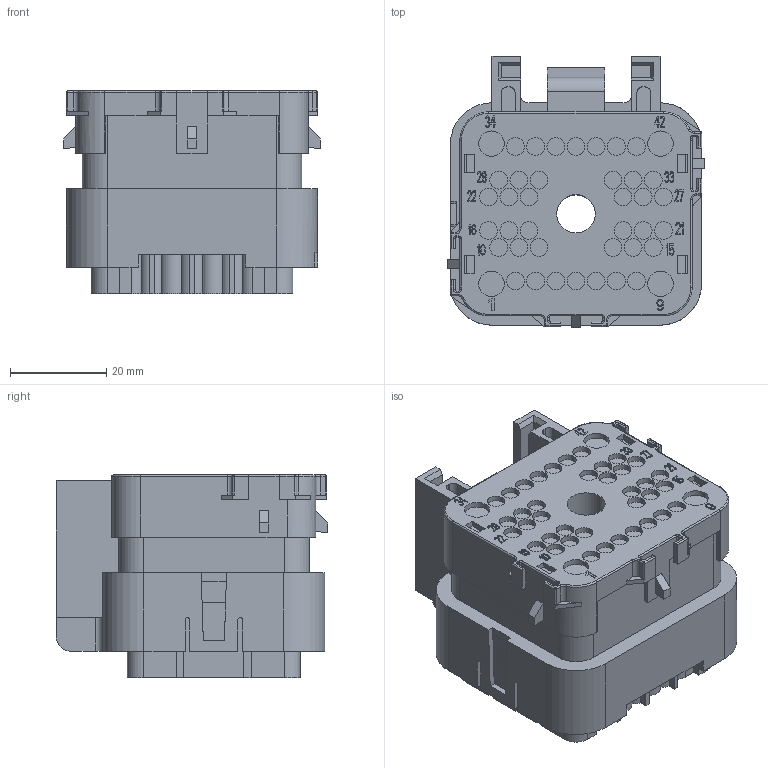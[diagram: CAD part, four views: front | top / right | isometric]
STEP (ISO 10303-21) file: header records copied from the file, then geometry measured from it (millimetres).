
FILE_DESCRIPTION((''),'2;1');
FILE_NAME('UP16_28-42S','2007-09-07T',('workeradm'),('Tyco Electronics Corporation'),'PRO/ENGINEER BY PARAMETRIC TECHNOLOGY CORPORATION, 2005450','PRO/ENGINEER BY PARAMETRIC TECHNOLOGY CORPORATION, 2005450','');
FILE_SCHEMA(('CONFIG_CONTROL_DESIGN', 'GEOMETRIC_VALIDATION_PROPERTIES_MIM'));
Length unit declared in the file: millimetre
Products named in the file (1): C-1599028-01-3
Bounding box: 53.4 x 56.6 x 42.3 mm (x, y, z)
Volume: 72751.6 mm3; surface area: 33174.5 mm2
Topology: 1 solids, 1 shells, 1844 faces, 4944 edges, 3266 vertices
Faces by surface type: plane 1419, cylinder 387, torus 24, cone 8, sphere 6
Entity records: 57223 total; most frequent: CARTESIAN_POINT 10075, ORIENTED_EDGE 9888, DIRECTION 9458, EDGE_CURVE 4944, VECTOR 4102, LINE 4102, VERTEX_POINT 3266, AXIS2_PLACEMENT_3D 2678
